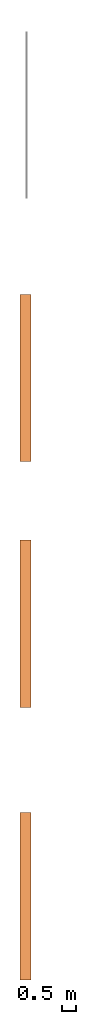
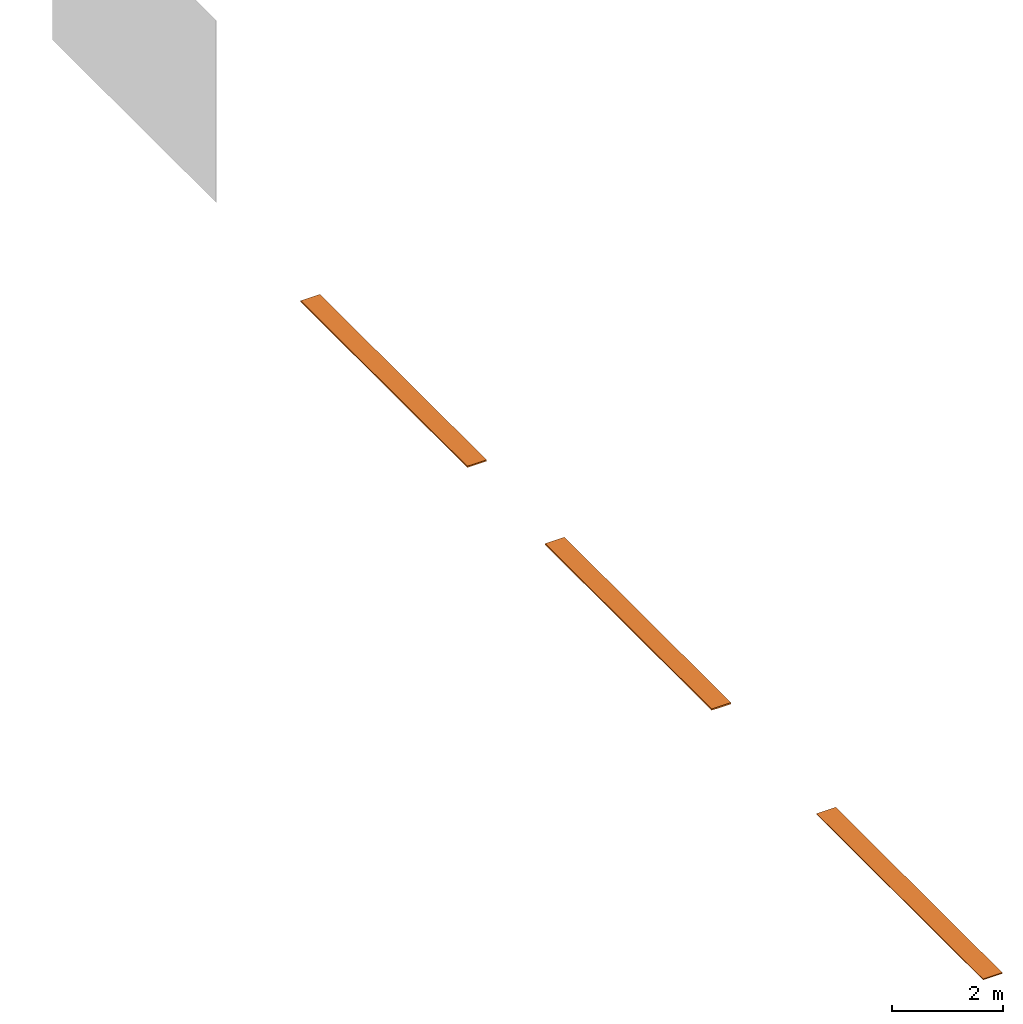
# One storey, part 2 of 2: 3 proxies.
"""IFC2X3 building model written with IfcOpenShell, lengths in millimetres."""

from ifc_helpers import new_model, entity, si_unit, converted_unit, derived_unit, direction, frame, origin, origin_2d_with_axis, place, context, subcontext, project, spatial, rectangle, extrude, source, transform, mapped, material, type_object, type_shapes, element, save


model = new_model("IFC2X3")

# Units and contexts
model_context = context("Model", 3, precision=0.01, world=origin(), true_north=direction((6.12303176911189e-17, 1.0)))
context_of_model = context(None, 3, precision=0.01, world=origin(), true_north=direction((6.12303176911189e-17, 1.0)))
body_context = subcontext(model_context, "Body", "Model", "MODEL_VIEW")
ifc_project = project(units=[si_unit("LENGTHUNIT", "METRE", prefix="MILLI"), si_unit("AREAUNIT", "SQUARE_METRE"), si_unit("VOLUMEUNIT", "CUBIC_METRE"), converted_unit("PLANEANGLEUNIT", "DEGREE", entity("IfcRatioMeasure", 0.0174532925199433), si_unit("PLANEANGLEUNIT", "RADIAN"), dimensions=[0, 0, 0, 0, 0, 0, 0]), si_unit("MASSUNIT", "GRAM", prefix="KILO"), si_unit("TIMEUNIT", "SECOND"), si_unit("FREQUENCYUNIT", "HERTZ"), si_unit("THERMODYNAMICTEMPERATUREUNIT", "DEGREE_CELSIUS"), derived_unit("THERMALTRANSMITTANCEUNIT", [(si_unit("MASSUNIT", "GRAM", prefix="KILO"), 1), (si_unit("THERMODYNAMICTEMPERATUREUNIT", "KELVIN"), -1), (si_unit("TIMEUNIT", "SECOND"), -3)]), derived_unit("VOLUMETRICFLOWRATEUNIT", [(si_unit("LENGTHUNIT", "METRE"), 3), (si_unit("TIMEUNIT", "SECOND"), -1)]), si_unit("ELECTRICCURRENTUNIT", "AMPERE"), si_unit("ELECTRICVOLTAGEUNIT", "VOLT"), si_unit("POWERUNIT", "WATT"), si_unit("FORCEUNIT", "NEWTON", prefix="KILO"), si_unit("ILLUMINANCEUNIT", "LUX"), si_unit("LUMINOUSFLUXUNIT", "LUMEN"), si_unit("LUMINOUSINTENSITYUNIT", "CANDELA"), si_unit("PRESSUREUNIT", "PASCAL")], contexts=[model_context, context_of_model])

# Site, building, storey
site_placement = place(None, origin())
site = spatial("IfcSite", under=ifc_project, at=site_placement, Name="Default", CompositionType="ELEMENT")
building_placement = place(site_placement, origin())
building = spatial("IfcBuilding", under=site, at=building_placement, CompositionType="ELEMENT")
storey_placement = place(building_placement, origin())
storey = spatial("IfcBuildingStorey", under=building, at=storey_placement, Name="Livello 1", CompositionType="ELEMENT", Elevation=0.0)

# Proxies
ifc_material_1 = material(Name="GASBETON Multimalt")
building_element_proxy_type_1 = type_object("IfcBuildingElementProxyType", Name="Multimalt", PredefinedType="NOTDEFINED", material=ifc_material_1)
shared_shape_1 = source(origin(), body_context, "Body", "SweptSolid", [
    extrude(rectangle(XDim=399.999999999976, YDim=6000.00000000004, at=origin_2d_with_axis()), frame((0.0, 0.0, 0.0), z_axis=(0.0, 0.0, 1.0), x_axis=(-1.0, 0.0, 0.0)), (0.0, 0.0, 1.0), 30.0),
])
type_shapes(building_element_proxy_type_1, [shared_shape_1])
proxy_1_placement = place(storey_placement, frame((-10163.5437975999, -44437.4720343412, 0.0)))
element("IfcBuildingElementProxy", 1, at=proxy_1_placement, inside=storey, type_object=building_element_proxy_type_1, material=ifc_material_1, Name="GASBETON Malte:Multimalt", ObjectType="Multimalt", context=body_context, shape_type="MappedRepresentation", body=[
    mapped(shared_shape_1, transform((0.0, 0.0, 0.0), scale=1.0)),
])
ifc_material_2 = material(Name="GASBETON Malta Ancorante IDRO")
building_element_proxy_type_2 = type_object("IfcBuildingElementProxyType", Name="Malta ancorante IDRO", PredefinedType="NOTDEFINED", material=ifc_material_2)
shared_shape_2 = source(origin(), body_context, "Body", "SweptSolid", [
    extrude(rectangle(XDim=399.999999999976, YDim=6000.00000000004, at=origin_2d_with_axis()), frame((0.0, 0.0, 0.0), z_axis=(0.0, 0.0, 1.0), x_axis=(-1.0, 0.0, 0.0)), (0.0, 0.0, 1.0), 30.0),
])
type_shapes(building_element_proxy_type_2, [shared_shape_2])
proxy_2_placement = place(storey_placement, frame((-10163.5437975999, -53237.4720343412, 0.0)))
element("IfcBuildingElementProxy", 2, at=proxy_2_placement, inside=storey, type_object=building_element_proxy_type_2, material=ifc_material_2, Name="GASBETON Malte:Malta ancorante IDRO", ObjectType="Malta ancorante IDRO", context=body_context, shape_type="MappedRepresentation", body=[
    mapped(shared_shape_2, transform((0.0, 0.0, 0.0), scale=1.0)),
])
ifc_material_3 = material(Name="Adesivo GASBETON")
building_element_proxy_type_3 = type_object("IfcBuildingElementProxyType", Name="Adesivo GASBETON", PredefinedType="NOTDEFINED", material=ifc_material_3)
shared_shape_3 = source(origin(), body_context, "Body", "SweptSolid", [
    extrude(rectangle(XDim=399.999999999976, YDim=6000.00000000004, at=origin_2d_with_axis()), frame((0.0, 0.0, 0.0), z_axis=(0.0, 0.0, 1.0), x_axis=(-1.0, 0.0, 0.0)), (0.0, 0.0, 1.0), 20.0),
])
type_shapes(building_element_proxy_type_3, [shared_shape_3])
proxy_3_placement = place(storey_placement, frame((-10163.5437975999, -63007.5098462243, 0.0)))
element("IfcBuildingElementProxy", 3, at=proxy_3_placement, inside=storey, type_object=building_element_proxy_type_3, material=ifc_material_3, Name="GASBETON Malte:Adesivo GASBETON", ObjectType="Adesivo GASBETON", context=body_context, shape_type="MappedRepresentation", body=[
    mapped(shared_shape_3, transform((0.0, 0.0, 0.0), scale=1.0)),
])

save(model, "model.ifc")
